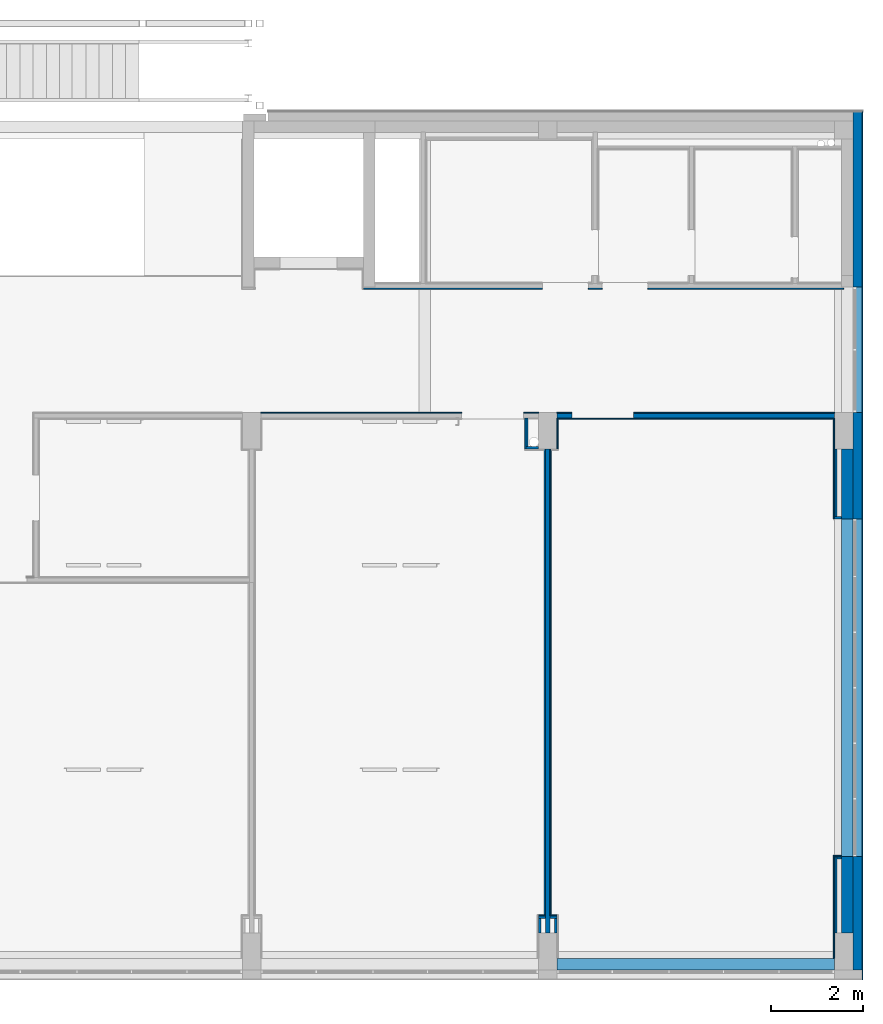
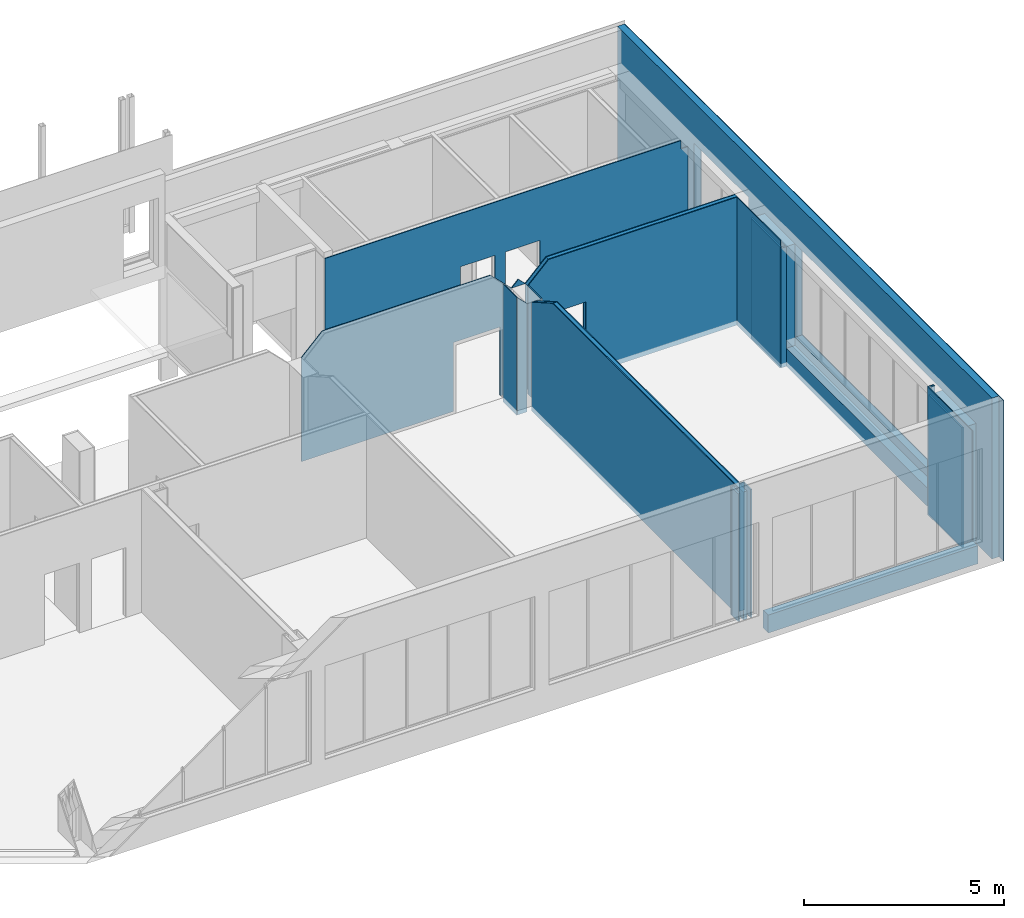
# One storey, part 25 of 29: 30 walls, 11 openings.
"""IFC2X3 building model written with IfcOpenShell, lengths in centimetres."""

from ifc_helpers import new_model, entity, si_unit, converted_unit, derived_unit, direction, frame, frame_2d, origin, origin_2d_with_axis, place, context, subcontext, project, spatial, polyline, rectangle, extrude, clip, bounded_halfspace, material, layer, layer_set, layer_usage, type_object, element, save


model = new_model("IFC2X3")

# Units and contexts
model_context = context("Model", 3, precision=0.001, world=origin(), true_north=direction((6.12303176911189e-17, 1.0)))
body_context = subcontext(model_context, "Body", "Model", "MODEL_VIEW")
ifc_project = project(units=[si_unit("LENGTHUNIT", "METRE", prefix="CENTI"), si_unit("AREAUNIT", "SQUARE_METRE"), si_unit("VOLUMEUNIT", "CUBIC_METRE"), converted_unit("PLANEANGLEUNIT", "DEGREE", entity("IfcRatioMeasure", 0.0174532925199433), si_unit("PLANEANGLEUNIT", "RADIAN"), dimensions=[0, 0, 0, 0, 0, 0, 0]), si_unit("MASSUNIT", "GRAM", prefix="KILO"), derived_unit("MASSDENSITYUNIT", [(si_unit("MASSUNIT", "GRAM", prefix="KILO"), 1), (si_unit("LENGTHUNIT", "METRE"), -3)]), derived_unit("MOMENTOFINERTIAUNIT", [(si_unit("LENGTHUNIT", "METRE"), 4)]), si_unit("TIMEUNIT", "SECOND"), si_unit("FREQUENCYUNIT", "HERTZ"), si_unit("THERMODYNAMICTEMPERATUREUNIT", "DEGREE_CELSIUS"), derived_unit("THERMALTRANSMITTANCEUNIT", [(si_unit("MASSUNIT", "GRAM", prefix="KILO"), 1), (si_unit("THERMODYNAMICTEMPERATUREUNIT", "KELVIN"), -1), (si_unit("TIMEUNIT", "SECOND"), -3)]), derived_unit("VOLUMETRICFLOWRATEUNIT", [(si_unit("LENGTHUNIT", "METRE"), 3), (si_unit("TIMEUNIT", "SECOND"), -1)]), si_unit("ELECTRICCURRENTUNIT", "AMPERE"), si_unit("ELECTRICVOLTAGEUNIT", "VOLT"), si_unit("POWERUNIT", "WATT"), si_unit("FORCEUNIT", "NEWTON", prefix="KILO"), si_unit("ILLUMINANCEUNIT", "LUX"), si_unit("LUMINOUSFLUXUNIT", "LUMEN"), si_unit("LUMINOUSINTENSITYUNIT", "CANDELA"), derived_unit("USERDEFINED", [(si_unit("MASSUNIT", "GRAM", prefix="KILO"), -1), (si_unit("LENGTHUNIT", "METRE"), -2), (si_unit("TIMEUNIT", "SECOND"), 3), (si_unit("LUMINOUSFLUXUNIT", "LUMEN"), 1)]), derived_unit("LINEARVELOCITYUNIT", [(si_unit("LENGTHUNIT", "METRE"), 1), (si_unit("TIMEUNIT", "SECOND"), -1)]), si_unit("PRESSUREUNIT", "PASCAL"), derived_unit("USERDEFINED", [(si_unit("LENGTHUNIT", "METRE"), -2), (si_unit("MASSUNIT", "GRAM", prefix="KILO"), 1), (si_unit("TIMEUNIT", "SECOND"), -2)]), derived_unit("LINEARFORCEUNIT", [(si_unit("MASSUNIT", "GRAM", prefix="KILO"), 1), (si_unit("LENGTHUNIT", "METRE"), 1), (si_unit("TIMEUNIT", "SECOND"), -2), (si_unit("LENGTHUNIT", "METRE"), -1)]), derived_unit("PLANARFORCEUNIT", [(si_unit("MASSUNIT", "GRAM", prefix="KILO"), 1), (si_unit("LENGTHUNIT", "METRE"), 1), (si_unit("TIMEUNIT", "SECOND"), -2), (si_unit("LENGTHUNIT", "METRE"), -2)])], contexts=[model_context])

# Site, building, storey
site_placement = place(None, origin())
site = spatial("IfcSite", under=ifc_project, at=site_placement, Name="Default", CompositionType="ELEMENT")
building_placement = place(site_placement, origin())
building = spatial("IfcBuilding", under=site, at=building_placement, CompositionType="ELEMENT")
storey_placement = place(building_placement, frame((0.0, 0.0, 545.0)))
storey = spatial("IfcBuildingStorey", under=building, at=storey_placement, Name="Poziom 1K +5,45", CompositionType="ELEMENT", Elevation=544.999999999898)

# Walls
ifc_material_1 = material(Name="_Beton C30/37")
ifc_layer_1 = layer(ifc_material_1, 25.0)
ifc_layer_set_1 = layer_set([ifc_layer_1], Name="Ściana podstawowa:Ściana żelbetowa gr. 25cm")
ifc_layer_usage_1 = layer_usage(ifc_layer_set_1, "AXIS2", "NEGATIVE", 12.5)
wall_type_1 = type_object("IfcWallType", Name="Ściana podstawowa:Ściana żelbetowa gr. 25cm", PredefinedType="STANDARD", material=ifc_layer_set_1)
wall_1_placement = place(storey_placement, frame((963.234891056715, 1390.12745208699, 0.0), z_axis=(0.0, 0.0, 1.0), x_axis=(0.0, -1.0, 0.0)))
element("IfcWallStandardCase", 1, at=wall_1_placement, inside=storey, type_object=wall_type_1, material=ifc_layer_usage_1, Name="Ściana podstawowa:Ściana żelbetowa gr. 25cm", ObjectType="Ściana podstawowa:Ściana żelbetowa gr. 25cm", context=body_context, shape_type="SweptSolid", body=[
    extrude(rectangle(XDim=152.000989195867, YDim=24.9999999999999, at=frame_2d((76.0004945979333, 0.0), x_axis=(-1.0, 0.0))), origin(), (0.0, 0.0, 1.0), 365.000000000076),
])
ifc_layer_usage_2 = layer_usage(ifc_layer_set_1, "AXIS2", "NEGATIVE", 12.5)
wall_2_placement = place(storey_placement, frame((963.234891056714, 502.126457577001, 0.0), z_axis=(0.0, 0.0, 1.0), x_axis=(0.0, -1.0, 0.0)))
element("IfcWallStandardCase", 2, at=wall_2_placement, inside=storey, type_object=wall_type_1, material=ifc_layer_usage_2, Name="Ściana podstawowa:Ściana żelbetowa gr. 25cm", ObjectType="Ściana podstawowa:Ściana żelbetowa gr. 25cm", context=body_context, shape_type="SweptSolid", body=[
    extrude(rectangle(XDim=166.99879997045, YDim=24.9999999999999, at=frame_2d((83.4993999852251, 0.0), x_axis=(-1.0, 0.0))), origin(), (0.0, 0.0, 1.0), 365.000000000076),
])
ifc_material_2 = material(Name="Pustak ceramiczny, klasa 15")
ifc_layer_2 = layer(ifc_material_2, 25.0)
ifc_layer_set_2 = layer_set([ifc_layer_2], Name="Ściana podstawowa:Ściana murowana gr. 25cm")
ifc_layer_usage_3 = layer_usage(ifc_layer_set_2, "AXIS2", "POSITIVE", -12.5)
wall_type_2 = type_object("IfcWallType", Name="Ściana podstawowa:Ściana murowana gr. 25cm", PredefinedType="STANDARD", material=ifc_layer_set_2)
wall_3_placement = place(storey_placement, frame((330.734893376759, 267.62765760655, 0.0)))
element("IfcWallStandardCase", 3, at=wall_3_placement, inside=storey, type_object=wall_type_2, material=ifc_layer_usage_3, Name="Ściana podstawowa:Ściana murowana gr. 25cm", ObjectType="Ściana podstawowa:Ściana murowana gr. 25cm", context=body_context, shape_type="SweptSolid", body=[
    extrude(rectangle(XDim=604.999997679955, YDim=24.9999999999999, at=frame_2d((302.499998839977, 0.0), x_axis=(-1.0, 0.0))), origin(), (0.0, 0.0, 1.0), 55.0000000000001),
])
ifc_layer_usage_4 = layer_usage(ifc_layer_set_2, "AXIS2", "POSITIVE", -12.5)
wall_4_placement = place(storey_placement, frame((963.234891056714, 502.126457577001, 0.0), z_axis=(0.0, 0.0, 1.0), x_axis=(0.0, 1.0, 0.0)))
element("IfcWallStandardCase", 4, at=wall_4_placement, inside=storey, type_object=wall_type_2, material=ifc_layer_usage_4, Name="Ściana podstawowa:Ściana murowana gr. 25cm", ObjectType="Ściana podstawowa:Ściana murowana gr. 25cm", context=body_context, shape_type="SweptSolid", body=[
    extrude(rectangle(XDim=736.000005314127, YDim=24.9999999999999, at=frame_2d((368.000002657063, 0.0), x_axis=(-1.0, 0.0))), origin(), (0.0, 0.0, 1.0), 55.0000000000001),
])

# Wall, opening
ifc_material_3 = material(Name="Wełna skalna")
ifc_layer_3 = layer(ifc_material_3, 10.0)
ifc_layer_set_3 = layer_set([ifc_layer_3], Name="Ściana podstawowa:Ściana GK rdzeń gr. 10cm")
ifc_layer_usage_5 = layer_usage(ifc_layer_set_3, "AXIS2", "NEGATIVE", 5.0)
wall_type_3 = type_object("IfcWallType", Name="Ściana podstawowa:Ściana GK rdzeń gr. 10cm", PredefinedType="STANDARD", material=ifc_layer_set_3)
wall_5_placement = place(storey_placement, frame((330.73489099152, 1462.62745216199, 13.0)))
wall_5 = element("IfcWallStandardCase", 5, at=wall_5_placement, inside=storey, type_object=wall_type_3, material=ifc_layer_usage_5, Name="Ściana podstawowa:Ściana GK rdzeń gr. 10cm", ObjectType="Ściana podstawowa:Ściana GK rdzeń gr. 10cm", context=body_context, shape_type="Clipping", body=[
    clip(extrude(rectangle(XDim=605.000000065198, YDim=9.99999999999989, at=frame_2d((302.500000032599, 0.0), x_axis=(-1.0, 0.0))), origin(), (0.0, 0.0, 1.0), 377.000000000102), bounded_halfspace(frame((0.0, -5.0, 317.0), z_axis=(0.707106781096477, 0.0, -0.707106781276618), x_axis=(0.0, 1.0, 0.0)), True, frame((0.0, -5.0, 317.0), z_axis=(0.707106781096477, 0.0, -0.707106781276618), x_axis=(0.0, 1.0, 0.0)), polyline([(0.0, 0.0), (10.0, 0.0), (10.0, 84.8528137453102), (0.0, 84.8528137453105), (0.0, 0.0)]))),
])
opening_1_placement = place(wall_5_placement, origin())
element("IfcOpeningElement", 6, at=opening_1_placement, cuts=wall_5, Name="Ściana podstawowa:Ściana GK rdzeń gr. 10cm", ObjectType="Opening", context=body_context, shape_type="SweptSolid", body=[
    extrude(rectangle(XDim=210.0, YDim=135.0, at=frame_2d((-5.6843418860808e-14, -4.9737991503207e-14), x_axis=(0.0, 1.0))), frame((99.9999941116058, -157.4, 105.0), z_axis=(0.0, 1.0, 0.0), x_axis=(1.0, 0.0, 0.0)), (0.0, 0.0, 1.0), 304.8),
])

# Walls
ifc_layer_usage_6 = layer_usage(ifc_layer_set_3, "AXIS2", "POSITIVE", -5.0)
wall_6_placement = place(storey_placement, frame((310.734879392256, 1390.12745208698, 0.0), z_axis=(0.0, 0.0, 1.0), x_axis=(0.0, -1.0, 0.0)))
element("IfcWallStandardCase", 7, at=wall_6_placement, inside=storey, type_object=wall_type_3, material=ifc_layer_usage_6, Name="Ściana podstawowa:Ściana GK rdzeń gr. 10cm", ObjectType="Ściana podstawowa:Ściana GK rdzeń gr. 10cm", context=body_context, shape_type="Clipping", body=[
    clip(extrude(rectangle(XDim=1054.99979448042, YDim=10.0, at=frame_2d((527.499897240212, 0.0), x_axis=(-1.0, 0.0))), origin(), (0.0, 0.0, 1.0), 390.000000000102), bounded_halfspace(frame((0.0, -5.0, 330.0), z_axis=(0.496138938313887, 0.0, -0.868243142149), x_axis=(0.0, 1.0, 0.0)), True, frame((0.0, -5.0, 330.0), z_axis=(0.496138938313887, 0.0, -0.868243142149), x_axis=(0.0, 1.0, 0.0)), polyline([(0.0, 0.0), (10.0, 0.0), (10.0, 120.933866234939), (0.0, 120.933866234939), (0.0, 0.0)]))),
])
ifc_layer_4 = layer(ifc_material_3, 5.0)
ifc_layer_set_4 = layer_set([ifc_layer_4], Name="Ściana podstawowa:Ściana GK rdzeń gr. 5cm")
ifc_layer_usage_7 = layer_usage(ifc_layer_set_4, "AXIS2", "NEGATIVE", 2.5)
wall_type_4 = type_object("IfcWallType", Name="Ściana podstawowa:Ściana GK rdzeń gr. 5cm", PredefinedType="STANDARD", material=ifc_layer_set_4)
wall_7_placement = place(storey_placement, frame((938.234879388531, 335.12765760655, 0.0), z_axis=(0.0, 0.0, 1.0), x_axis=(0.0, 1.0, 0.0)))
element("IfcWallStandardCase", 8, at=wall_7_placement, inside=storey, type_object=wall_type_4, material=ifc_layer_usage_7, Name="Ściana podstawowa:Ściana GK rdzeń gr. 5cm", ObjectType="Ściana podstawowa:Ściana GK rdzeń gr. 5cm", context=body_context, shape_type="Clipping", body=[
    clip(extrude(rectangle(XDim=166.99879997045, YDim=4.99999999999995, at=frame_2d((83.4993999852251, -2.22044604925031e-15), x_axis=(-1.0, 0.0))), origin(), (0.0, 0.0, 1.0), 364.99999999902), bounded_halfspace(frame((0.0, -2.49999999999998, 365.0), z_axis=(0.0, 0.0, -1.0), x_axis=(-1.0, 0.0, 0.0)), True, frame((0.0, -2.49999999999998, 365.0), z_axis=(0.0, 0.0, -1.0), x_axis=(-1.0, 0.0, 0.0)), polyline([(0.0, 0.0), (0.0, 5.0), (-166.99879997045, 5.0), (-166.99879997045, 0.0), (0.0, 0.0)]))),
])
ifc_layer_usage_8 = layer_usage(ifc_layer_set_4, "AXIS2", "NEGATIVE", 2.5)
wall_8_placement = place(storey_placement, frame((940.734879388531, 499.626457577, 0.0)))
element("IfcWallStandardCase", 9, at=wall_8_placement, inside=storey, type_object=wall_type_4, material=ifc_layer_usage_8, Name="Ściana podstawowa:Ściana GK rdzeń gr. 5cm", ObjectType="Ściana podstawowa:Ściana GK rdzeń gr. 5cm", context=body_context, shape_type="SweptSolid", body=[
    extrude(rectangle(XDim=10.0000116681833, YDim=4.99999999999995, at=frame_2d((5.00000583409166, 0.0), x_axis=(-1.0, 0.0))), origin(), (0.0, 0.0, 1.0), 390.000000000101),
])
ifc_layer_usage_9 = layer_usage(ifc_layer_set_4, "AXIS2", "NEGATIVE", 2.5)
wall_9_placement = place(storey_placement, frame((315.734879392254, 370.127452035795, 0.0)))
element("IfcWallStandardCase", 10, at=wall_9_placement, inside=storey, type_object=wall_type_4, material=ifc_layer_usage_9, Name="Ściana podstawowa:Ściana GK rdzeń gr. 5cm", ObjectType="Ściana podstawowa:Ściana GK rdzeń gr. 5cm", context=body_context, shape_type="SweptSolid", body=[
    extrude(rectangle(XDim=15.0000139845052, YDim=5.00000000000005, at=frame_2d((7.50000699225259, 5.55111512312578e-15), x_axis=(-1.0, 0.0))), origin(), (0.0, 0.0, 1.0), 390.000000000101),
])
ifc_layer_usage_10 = layer_usage(ifc_layer_set_4, "AXIS2", "NEGATIVE", 2.5)
wall_10_placement = place(storey_placement, frame((328.234893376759, 367.627452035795, 0.0), z_axis=(0.0, 0.0, 1.0), x_axis=(0.0, -1.0, 0.0)))
element("IfcWallStandardCase", 11, at=wall_10_placement, inside=storey, type_object=wall_type_4, material=ifc_layer_usage_10, Name="Ściana podstawowa:Ściana GK rdzeń gr. 5cm", ObjectType="Ściana podstawowa:Ściana GK rdzeń gr. 5cm", context=body_context, shape_type="SweptSolid", body=[
    extrude(rectangle(XDim=32.4997944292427, YDim=4.99999999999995, at=frame_2d((16.2498972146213, 0.0), x_axis=(-1.0, 0.0))), origin(), (0.0, 0.0, 1.0), 390.000000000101),
])
ifc_layer_usage_11 = layer_usage(ifc_layer_set_4, "AXIS2", "NEGATIVE", 2.5)
wall_11_placement = place(storey_placement, frame((293.234879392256, 367.627452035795, 0.0), z_axis=(0.0, 0.0, 1.0), x_axis=(0.0, -1.0, 0.0)))
element("IfcWallStandardCase", 12, at=wall_11_placement, inside=storey, type_object=wall_type_4, material=ifc_layer_usage_11, Name="Ściana podstawowa:Ściana GK rdzeń gr. 5cm", ObjectType="Ściana podstawowa:Ściana GK rdzeń gr. 5cm", context=body_context, shape_type="SweptSolid", body=[
    extrude(rectangle(XDim=32.4997944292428, YDim=4.99999999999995, at=frame_2d((16.2498972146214, 0.0), x_axis=(-1.0, 0.0))), origin(), (0.0, 0.0, 1.0), 390.000000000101),
])
ifc_layer_usage_12 = layer_usage(ifc_layer_set_4, "AXIS2", "NEGATIVE", 2.5)
wall_12_placement = place(storey_placement, frame((305.734879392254, 370.127452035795, 0.0), z_axis=(0.0, 0.0, 1.0), x_axis=(-1.0, 0.0, 0.0)))
element("IfcWallStandardCase", 13, at=wall_12_placement, inside=storey, type_object=wall_type_4, material=ifc_layer_usage_12, Name="Ściana podstawowa:Ściana GK rdzeń gr. 5cm", ObjectType="Ściana podstawowa:Ściana GK rdzeń gr. 5cm", context=body_context, shape_type="SweptSolid", body=[
    extrude(rectangle(XDim=14.9999860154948, YDim=5.00000000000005, at=frame_2d((7.49999300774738, 5.55111512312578e-15), x_axis=(-1.0, 0.0))), origin(), (0.0, 0.0, 1.0), 390.000000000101),
])
ifc_layer_usage_13 = layer_usage(ifc_layer_set_4, "AXIS2", "NEGATIVE", 2.5)
wall_13_placement = place(storey_placement, frame((265.73487367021, 1457.62745216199, 0.0), z_axis=(0.0, 0.0, 1.0), x_axis=(0.0, -1.0, 0.0)))
element("IfcWallStandardCase", 14, at=wall_13_placement, inside=storey, type_object=wall_type_4, material=ifc_layer_usage_13, Name="Ściana podstawowa:Ściana GK rdzeń gr. 5cm", ObjectType="Ściana podstawowa:Ściana GK rdzeń gr. 5cm", context=body_context, shape_type="Clipping", body=[
    clip(extrude(rectangle(XDim=62.4999999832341, YDim=5.00000000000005, at=frame_2d((31.249999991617, 0.0), x_axis=(-1.0, 0.0))), origin(), (0.0, 0.0, 1.0), 357.500017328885), bounded_halfspace(frame((0.0, -2.49999999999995, 357.500017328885), z_axis=(0.0, -0.707106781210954, -0.707106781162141), x_axis=(1.0, 0.0, 0.0)), True, frame((0.0, -2.49999999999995, 357.500017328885), z_axis=(0.0, -0.707106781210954, -0.707106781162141), x_axis=(1.0, 0.0, 0.0)), polyline([(0.0, 0.0), (0.0, -7.0710678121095), (62.4999999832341, -7.07106781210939), (62.4999999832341, 0.0), (0.0, 0.0)]))),
])
ifc_layer_usage_14 = layer_usage(ifc_layer_set_4, "AXIS2", "NEGATIVE", 2.5)
wall_14_placement = place(storey_placement, frame((263.23487367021, 1392.62745217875, 0.0)))
element("IfcWallStandardCase", 15, at=wall_14_placement, inside=storey, type_object=wall_type_4, material=ifc_layer_usage_14, Name="Ściana podstawowa:Ściana GK rdzeń gr. 5cm", ObjectType="Ściana podstawowa:Ściana GK rdzeń gr. 5cm", context=body_context, shape_type="Clipping", body=[
    clip(extrude(rectangle(XDim=27.5000173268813, YDim=5.00000000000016, at=frame_2d((13.7500086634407, 0.0), x_axis=(-1.0, 0.0))), origin(), (0.0, 0.0, 1.0), 357.500017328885), bounded_halfspace(frame((0.0, -2.49999999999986, 357.500017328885), z_axis=(-0.707106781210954, 0.0, -0.707106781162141), x_axis=(0.0, -1.0, 0.0)), True, frame((0.0, -2.49999999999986, 357.500017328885), z_axis=(-0.707106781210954, 0.0, -0.707106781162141), x_axis=(0.0, -1.0, 0.0)), polyline([(0.0, 0.0), (-5.0, 0.0), (-5.0, -38.890897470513), (0.0, -38.8908974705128), (0.0, 0.0)]))),
])
ifc_layer_usage_15 = layer_usage(ifc_layer_set_4, "AXIS2", "NEGATIVE", 2.5)
wall_15_placement = place(storey_placement, frame((938.234890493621, 1390.12745208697, 0.0), z_axis=(0.0, 0.0, 1.0), x_axis=(0.0, -1.0, 0.0)))
element("IfcWallStandardCase", 16, at=wall_15_placement, inside=storey, type_object=wall_type_4, material=ifc_layer_usage_15, Name="Ściana podstawowa:Ściana GK rdzeń gr. 5cm", ObjectType="Ściana podstawowa:Ściana GK rdzeń gr. 5cm", context=body_context, shape_type="Clipping", body=[
    clip(extrude(rectangle(XDim=147.000988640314, YDim=4.99999999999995, at=frame_2d((73.5004943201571, 0.0), x_axis=(-1.0, 0.0))), origin(), (0.0, 0.0, 1.0), 364.99999999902), bounded_halfspace(frame((0.0, -2.49999999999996, 365.0), z_axis=(0.0, 0.0, -1.0), x_axis=(1.0, 0.0, 0.0)), True, frame((0.0, -2.49999999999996, 365.0), z_axis=(0.0, 0.0, -1.0), x_axis=(1.0, 0.0, 0.0)), polyline([(0.0, 0.0), (0.0, -5.0), (147.000988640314, -5.0), (147.000988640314, 0.0), (0.0, 0.0)]))),
])
ifc_layer_usage_16 = layer_usage(ifc_layer_set_4, "AXIS2", "NEGATIVE", 2.5)
wall_16_placement = place(storey_placement, frame((935.734890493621, 1240.62646344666, 0.0)))
element("IfcWallStandardCase", 17, at=wall_16_placement, inside=storey, type_object=wall_type_4, material=ifc_layer_usage_16, Name="Ściana podstawowa:Ściana GK rdzeń gr. 5cm", ObjectType="Ściana podstawowa:Ściana GK rdzeń gr. 5cm", context=body_context, shape_type="Clipping", body=[
    clip(extrude(rectangle(XDim=15.0000005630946, YDim=5.00000000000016, at=frame_2d((7.50000028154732, 0.0), x_axis=(-1.0, 0.0))), origin(), (0.0, 0.0, 1.0), 364.99999999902), bounded_halfspace(frame((0.0, -2.49999999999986, 365.0), z_axis=(0.0, 0.0, -1.0), x_axis=(0.0, -1.0, 0.0)), True, frame((0.0, -2.49999999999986, 365.0), z_axis=(0.0, 0.0, -1.0), x_axis=(0.0, -1.0, 0.0)), polyline([(0.0, 0.0), (-5.0, 0.0), (-5.0, -15.0000005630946), (0.0, -15.0000005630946), (0.0, 0.0)]))),
])

# Wall, openings
ifc_material_4 = material(Name="Tynk gipsowy")
ifc_layer_5 = layer(ifc_material_4, 2.5)
ifc_layer_set_5 = layer_set([ifc_layer_5], Name="Ściana podstawowa:Ściana GK wykonczenie gr. 2,5cm")
ifc_layer_usage_17 = layer_usage(ifc_layer_set_5, "AXIS2", "NEGATIVE", 1.25)
wall_type_5 = type_object("IfcWallType", Name="Ściana podstawowa:Ściana GK wykonczenie gr. 2,5cm", PredefinedType="STANDARD", material=ifc_layer_set_5)
wall_17_placement = place(storey_placement, frame((-90.7651144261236, 1739.37745162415, 13.0)))
wall_17 = element("IfcWallStandardCase", 18, at=wall_17_placement, inside=storey, type_object=wall_type_5, material=ifc_layer_usage_17, Name="Ściana podstawowa:Ściana GK wykonczenie gr. 2,5cm", ObjectType="Ściana podstawowa:Ściana GK wykonczenie gr. 2,5cm", context=body_context, shape_type="Clipping", body=[
    clip(clip(extrude(rectangle(XDim=1046.50000548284, YDim=2.49999999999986, at=frame_2d((523.250002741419, 0.0), x_axis=(-1.0, 0.0))), origin(), (0.0, 0.0, 1.0), 377.000000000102), bounded_halfspace(frame((1026.50000548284, 1.24999999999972, 352.0), z_axis=(0.0, 0.0, -1.0), x_axis=(0.0, -1.0, 0.0)), True, frame((1026.50000548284, 1.24999999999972, 352.0), z_axis=(0.0, 0.0, -1.0), x_axis=(0.0, -1.0, 0.0)), polyline([(0.0, 0.0), (0.0, -20.0), (2.49999999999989, -20.0), (2.50000000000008, 0.0), (0.0, 0.0)]))), bounded_halfspace(frame((1026.50000548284, -1.25000000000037, 352.0), z_axis=(-1.0, 0.0, 0.0), x_axis=(0.0, -1.0, 0.0)), True, frame((1026.50000548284, -1.25000000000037, 352.0), z_axis=(-1.0, 0.0, 0.0), x_axis=(0.0, -1.0, 0.0)), polyline([(0.0, 0.0), (0.0, 25.0), (-2.50000000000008, 25.0), (-2.50000000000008, 0.0), (0.0, 0.0)]))),
])
opening_2_placement = place(wall_17_placement, origin())
element("IfcOpeningElement", 19, at=opening_2_placement, cuts=wall_17, Name="Ściana podstawowa:Ściana GK wykonczenie gr. 2,5cm", ObjectType="Opening", context=body_context, shape_type="SweptSolid", body=[
    extrude(rectangle(XDim=215.0, YDim=99.9999999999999, at=frame_2d((0.0, 2.8421709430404e-14), x_axis=(1.0, 0.0))), frame((439.999993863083, -141.149999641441, 107.5), z_axis=(0.0, 1.0, 0.0), x_axis=(0.0, 0.0, -1.0)), (0.0, 0.0, 1.0), 304.8),
])
opening_3_placement = place(wall_17_placement, origin())
element("IfcOpeningElement", 20, at=opening_3_placement, cuts=wall_17, Name="Ściana podstawowa:Ściana GK wykonczenie gr. 2,5cm", ObjectType="Opening", context=body_context, shape_type="SweptSolid", body=[
    extrude(rectangle(XDim=215.0, YDim=99.9999999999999, at=frame_2d((0.0, 8.17124146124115e-14), x_axis=(1.0, 0.0))), frame((569.999993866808, -141.149999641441, 107.5), z_axis=(0.0, 1.0, 0.0), x_axis=(0.0, 0.0, -1.0)), (0.0, 0.0, 1.0), 304.8),
])

ifc_layer_usage_18 = layer_usage(ifc_layer_set_5, "AXIS2", "NEGATIVE", 1.25)
wall_18_placement = place(storey_placement, frame((-314.265109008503, 1468.87745208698, 13.0)))
wall_18 = element("IfcWallStandardCase", 21, at=wall_18_placement, inside=storey, type_object=wall_type_5, material=ifc_layer_usage_18, Name="Ściana podstawowa:Ściana GK wykonczenie gr. 2,5cm", ObjectType="Ściana podstawowa:Ściana GK wykonczenie gr. 2,5cm", context=body_context, shape_type="Clipping", body=[
    clip(clip(clip(extrude(rectangle(XDim=1250.00000361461, YDim=2.49999999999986, at=frame_2d((625.000001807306, 0.0), x_axis=(-1.0, 0.0))), origin(), (0.0, 0.0, 1.0), 377.000000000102), bounded_halfspace(frame((0.0, -1.25000000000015, 317.0), z_axis=(0.707106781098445, 0.0, -0.707106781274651), x_axis=(0.0, 1.0, 0.0)), True, frame((0.0, -1.25000000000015, 317.0), z_axis=(0.707106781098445, 0.0, -0.707106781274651), x_axis=(0.0, 1.0, 0.0)), polyline([(0.0, 0.0), (2.50000000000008, 0.0), (2.49999999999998, 84.8528137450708), (0.0, 84.8528137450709), (0.0, 0.0)]))), bounded_halfspace(frame((545.0, -1.24999999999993, 377.0), z_axis=(-0.707106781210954, 0.0, -0.707106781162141), x_axis=(0.0, -1.0, 0.0)), True, frame((545.0, -1.24999999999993, 377.0), z_axis=(-0.707106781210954, 0.0, -0.707106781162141), x_axis=(0.0, -1.0, 0.0)), polyline([(0.0, 0.0), (-2.50000000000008, 0.0), (-2.49999999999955, -84.8528137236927), (0.0, -84.8528137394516), (0.0, 0.0)]))), bounded_halfspace(frame((645.0, -1.25000000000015, 317.0), z_axis=(0.707106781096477, 0.0, -0.707106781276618), x_axis=(0.0, 1.0, 0.0)), True, frame((645.0, -1.25000000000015, 317.0), z_axis=(0.707106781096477, 0.0, -0.707106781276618), x_axis=(0.0, 1.0, 0.0)), polyline([(0.0, 0.0), (2.50000000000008, 0.0), (2.49999999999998, 84.8528137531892), (0.0, 84.8528137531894), (0.0, 0.0)]))),
])
opening_4_placement = place(storey_placement, frame((-314.265109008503, 1468.87745208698, 13.0)))
element("IfcOpeningElement", 22, at=opening_4_placement, cuts=wall_18, Name="Ściana podstawowa:Ściana GK wykonczenie gr. 2,5cm:1", ObjectType="Opening", context=body_context, shape_type="SweptSolid", body=[
    extrude(rectangle(XDim=317.000000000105, YDim=2.50000000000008, at=frame_2d((4.2632564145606e-14, 1.08357767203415e-13), x_axis=(1.0, 0.0))), frame((605.0, 0.0, 158.500000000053), z_axis=(1.0, 0.0, 0.0), x_axis=(0.0, 0.0, -1.0)), (0.0, 0.0, 1.0), 40.0),
])
opening_5_placement = place(wall_18_placement, origin())
element("IfcOpeningElement", 23, at=opening_5_placement, cuts=wall_18, Name="Ściana podstawowa:Ściana GK wykonczenie gr. 2,5cm", ObjectType="Opening", context=body_context, shape_type="SweptSolid", body=[
    extrude(rectangle(XDim=210.0, YDim=135.0, at=frame_2d((-1.4210854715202e-14, -4.9737991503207e-14), x_axis=(0.0, 1.0))), frame((504.999982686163, -163.64999992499, 105.0), z_axis=(0.0, 1.0, 0.0), x_axis=(1.0, 0.0, 0.0)), (0.0, 0.0, 1.0), 304.8),
])
opening_6_placement = place(wall_18_placement, origin())
element("IfcOpeningElement", 24, at=opening_6_placement, cuts=wall_18, Name="Ściana podstawowa:Ściana GK wykonczenie gr. 2,5cm", ObjectType="Opening", context=body_context, shape_type="SweptSolid", body=[
    extrude(rectangle(XDim=210.0, YDim=135.0, at=frame_2d((-5.6843418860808e-14, -4.9737991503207e-14), x_axis=(0.0, 1.0))), frame((744.999994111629, -163.64999992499, 105.0), z_axis=(0.0, 1.0, 0.0), x_axis=(1.0, 0.0, 0.0)), (0.0, 0.0, 1.0), 304.8),
])

# Wall, opening
ifc_layer_usage_19 = layer_usage(ifc_layer_set_5, "AXIS2", "NEGATIVE", 1.25)
wall_19_placement = place(storey_placement, frame((330.73489099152, 1456.37745216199, 0.0)))
wall_19 = element("IfcWallStandardCase", 25, at=wall_19_placement, inside=storey, type_object=wall_type_5, material=ifc_layer_usage_19, Name="Ściana podstawowa:Ściana GK wykonczenie gr. 2,5cm", ObjectType="Ściana podstawowa:Ściana GK wykonczenie gr. 2,5cm", context=body_context, shape_type="Clipping", body=[
    clip(extrude(rectangle(XDim=605.000000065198, YDim=2.49999999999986, at=frame_2d((302.500000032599, 0.0), x_axis=(-1.0, 0.0))), origin(), (0.0, 0.0, 1.0), 390.000000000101), bounded_halfspace(frame((0.0, -1.25000000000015, 330.0), z_axis=(0.707106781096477, 0.0, -0.707106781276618), x_axis=(0.0, 1.0, 0.0)), True, frame((0.0, -1.25000000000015, 330.0), z_axis=(0.707106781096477, 0.0, -0.707106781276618), x_axis=(0.0, 1.0, 0.0)), polyline([(0.0, 0.0), (2.50000000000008, 0.0), (2.49999999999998, 84.8528137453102), (0.0, 84.8528137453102), (0.0, 0.0)]))),
])
opening_7_placement = place(wall_19_placement, origin())
element("IfcOpeningElement", 26, at=opening_7_placement, cuts=wall_19, Name="Ściana podstawowa:Ściana GK wykonczenie gr. 2,5cm", ObjectType="Opening", context=body_context, shape_type="SweptSolid", body=[
    extrude(rectangle(XDim=210.0, YDim=135.0, at=frame_2d((-5.6843418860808e-14, -4.9737991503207e-14), x_axis=(0.0, 1.0))), frame((99.9999941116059, -151.15, 118.0), z_axis=(0.0, 1.0, 0.0), x_axis=(1.0, 0.0, 0.0)), (0.0, 0.0, 1.0), 304.8),
])

# Walls
ifc_layer_usage_20 = layer_usage(ifc_layer_set_5, "AXIS2", "NEGATIVE", 1.25)
wall_20_placement = place(storey_placement, frame((934.484891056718, 1455.12745216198, 0.0), z_axis=(0.0, 0.0, 1.0), x_axis=(0.0, -1.0, 0.0)))
element("IfcWallStandardCase", 27, at=wall_20_placement, inside=storey, type_object=wall_type_5, material=ifc_layer_usage_20, Name="Ściana podstawowa:Ściana GK wykonczenie gr. 2,5cm", ObjectType="Ściana podstawowa:Ściana GK wykonczenie gr. 2,5cm", context=body_context, shape_type="SweptSolid", body=[
    extrude(rectangle(XDim=217.000988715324, YDim=2.50000000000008, at=frame_2d((108.500494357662, -1.77635683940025e-15), x_axis=(-1.0, 0.0))), origin(), (0.0, 0.0, 1.0), 390.000000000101),
])
ifc_layer_usage_21 = layer_usage(ifc_layer_set_5, "AXIS2", "NEGATIVE", 1.25)
wall_21_placement = place(storey_placement, frame((950.734891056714, 503.376457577, 0.0), z_axis=(0.0, 0.0, 1.0), x_axis=(-1.0, 0.0, 0.0)))
element("IfcWallStandardCase", 28, at=wall_21_placement, inside=storey, type_object=wall_type_5, material=ifc_layer_usage_21, Name="Ściana podstawowa:Ściana GK wykonczenie gr. 2,5cm", ObjectType="Ściana podstawowa:Ściana GK wykonczenie gr. 2,5cm", context=body_context, shape_type="SweptSolid", body=[
    extrude(rectangle(XDim=15.0000116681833, YDim=2.50000000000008, at=frame_2d((7.50000583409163, -7.66053886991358e-15), x_axis=(-1.0, 0.0))), origin(), (0.0, 0.0, 1.0), 390.000000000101),
])
ifc_layer_usage_22 = layer_usage(ifc_layer_set_5, "AXIS2", "NEGATIVE", 1.25)
wall_22_placement = place(storey_placement, frame((934.484891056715, 504.626457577, 0.0), z_axis=(0.0, 0.0, 1.0), x_axis=(0.0, -1.0, 0.0)))
element("IfcWallStandardCase", 29, at=wall_22_placement, inside=storey, type_object=wall_type_5, material=ifc_layer_usage_22, Name="Ściana podstawowa:Ściana GK wykonczenie gr. 2,5cm", ObjectType="Ściana podstawowa:Ściana GK wykonczenie gr. 2,5cm", context=body_context, shape_type="SweptSolid", body=[
    extrude(rectangle(XDim=224.498799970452, YDim=2.50000000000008, at=frame_2d((112.249399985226, 0.0), x_axis=(-1.0, 0.0))), origin(), (0.0, 0.0, 1.0), 390.000000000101),
])
ifc_layer_usage_23 = layer_usage(ifc_layer_set_5, "AXIS2", "NEGATIVE", 1.25)
wall_23_placement = place(storey_placement, frame((330.734893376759, 373.877452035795, 0.0), z_axis=(0.0, 0.0, 1.0), x_axis=(-1.0, 0.0, 0.0)))
element("IfcWallStandardCase", 30, at=wall_23_placement, inside=storey, type_object=wall_type_5, material=ifc_layer_usage_23, Name="Ściana podstawowa:Ściana GK wykonczenie gr. 2,5cm", ObjectType="Ściana podstawowa:Ściana GK wykonczenie gr. 2,5cm", context=body_context, shape_type="SweptSolid", body=[
    extrude(rectangle(XDim=15.0000139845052, YDim=2.49999999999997, at=frame_2d((7.50000699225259, 0.0), x_axis=(-1.0, 0.0))), origin(), (0.0, 0.0, 1.0), 390.000000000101),
])
ifc_layer_usage_24 = layer_usage(ifc_layer_set_5, "AXIS2", "NEGATIVE", 1.25)
wall_24_placement = place(storey_placement, frame((316.984879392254, 375.127452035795, 0.0), z_axis=(0.0, 0.0, 1.0), x_axis=(0.0, 1.0, 0.0)))
element("IfcWallStandardCase", 31, at=wall_24_placement, inside=storey, type_object=wall_type_5, material=ifc_layer_usage_24, Name="Ściana podstawowa:Ściana GK wykonczenie gr. 2,5cm", ObjectType="Ściana podstawowa:Ściana GK wykonczenie gr. 2,5cm", context=body_context, shape_type="Clipping", body=[
    clip(extrude(rectangle(XDim=1015.00000005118, YDim=2.49999999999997, at=frame_2d((507.500000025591, 0.0), x_axis=(-1.0, 0.0))), origin(), (0.0, 0.0, 1.0), 390.000000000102), bounded_halfspace(frame((910.0, -1.24999999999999, 390.0), z_axis=(-0.496138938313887, 0.0, -0.868243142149), x_axis=(0.0, -1.0, 0.0)), True, frame((910.0, -1.24999999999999, 390.0), z_axis=(-0.496138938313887, 0.0, -0.868243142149), x_axis=(0.0, -1.0, 0.0)), polyline([(0.0, 0.0), (-2.49999999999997, 0.0), (-2.49999999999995, -120.93386623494), (0.0, -120.93386623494), (0.0, 0.0)]))),
])
ifc_layer_usage_25 = layer_usage(ifc_layer_set_5, "AXIS2", "NEGATIVE", 1.25)
wall_25_placement = place(storey_placement, frame((331.984890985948, 1390.12745208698, 0.0), z_axis=(0.0, 0.0, 1.0), x_axis=(0.0, 1.0, 0.0)))
element("IfcWallStandardCase", 32, at=wall_25_placement, inside=storey, type_object=wall_type_5, material=ifc_layer_usage_25, Name="Ściana podstawowa:Ściana GK wykonczenie gr. 2,5cm", ObjectType="Ściana podstawowa:Ściana GK wykonczenie gr. 2,5cm", context=body_context, shape_type="Clipping", body=[
    clip(extrude(rectangle(XDim=64.9999999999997, YDim=2.49999999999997, at=frame_2d((32.4999999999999, 0.0), x_axis=(-1.0, 0.0))), origin(), (0.0, 0.0, 1.0), 332.499999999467), bounded_halfspace(frame((0.0, -1.25, 332.499999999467), z_axis=(0.0, -0.707106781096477, -0.707106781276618), x_axis=(1.0, 0.0, 0.0)), True, frame((0.0, -1.25, 332.499999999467), z_axis=(0.0, -0.707106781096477, -0.707106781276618), x_axis=(1.0, 0.0, 0.0)), polyline([(0.0, 0.0), (0.0, -3.5355339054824), (65.0, -3.53553390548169), (65.0, 0.0), (0.0, 0.0)]))),
])
ifc_layer_usage_26 = layer_usage(ifc_layer_set_5, "AXIS2", "NEGATIVE", 1.25)
wall_26_placement = place(storey_placement, frame((290.734879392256, 373.877452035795, 0.0)))
element("IfcWallStandardCase", 33, at=wall_26_placement, inside=storey, type_object=wall_type_5, material=ifc_layer_usage_26, Name="Ściana podstawowa:Ściana GK wykonczenie gr. 2,5cm", ObjectType="Ściana podstawowa:Ściana GK wykonczenie gr. 2,5cm", context=body_context, shape_type="SweptSolid", body=[
    extrude(rectangle(XDim=14.9999949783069, YDim=2.49999999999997, at=frame_2d((7.49999748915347, 0.0), x_axis=(-1.0, 0.0))), origin(), (0.0, 0.0, 1.0), 390.000000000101),
])
ifc_layer_usage_27 = layer_usage(ifc_layer_set_5, "AXIS2", "NEGATIVE", 1.25)
wall_27_placement = place(storey_placement, frame((304.484874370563, 375.127452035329, 0.0), z_axis=(0.0, 0.0, 1.0), x_axis=(0.0, 1.0, 0.0)))
element("IfcWallStandardCase", 34, at=wall_27_placement, inside=storey, type_object=wall_type_5, material=ifc_layer_usage_27, Name="Ściana podstawowa:Ściana GK wykonczenie gr. 2,5cm", ObjectType="Ściana podstawowa:Ściana GK wykonczenie gr. 2,5cm", context=body_context, shape_type="Clipping", body=[
    clip(extrude(rectangle(XDim=1015.00000005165, YDim=2.49999999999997, at=frame_2d((507.500000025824, 0.0), x_axis=(-1.0, 0.0))), origin(), (0.0, 0.0, 1.0), 390.000000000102), bounded_halfspace(frame((910.0, -1.24999999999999, 390.0), z_axis=(-0.496138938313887, 0.0, -0.868243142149), x_axis=(0.0, -1.0, 0.0)), True, frame((910.0, -1.24999999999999, 390.0), z_axis=(-0.496138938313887, 0.0, -0.868243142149), x_axis=(0.0, -1.0, 0.0)), polyline([(0.0, 0.0), (-2.49999999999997, 0.0), (-2.49999999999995, -120.93386623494), (0.0, -120.93386623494), (0.0, 0.0)]))),
])
ifc_layer_usage_28 = layer_usage(ifc_layer_set_5, "AXIS2", "NEGATIVE", 1.25)
wall_28_placement = place(storey_placement, frame((261.98487367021, 1390.12745208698, 0.0), z_axis=(0.0, 0.0, 1.0), x_axis=(0.0, 1.0, 0.0)))
element("IfcWallStandardCase", 35, at=wall_28_placement, inside=storey, type_object=wall_type_5, material=ifc_layer_usage_28, Name="Ściana podstawowa:Ściana GK wykonczenie gr. 2,5cm", ObjectType="Ściana podstawowa:Ściana GK wykonczenie gr. 2,5cm", context=body_context, shape_type="Clipping", body=[
    clip(extrude(rectangle(XDim=67.5000000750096, YDim=2.49999999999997, at=frame_2d((33.7500000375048, 2.1094237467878e-15), x_axis=(-1.0, 0.0))), origin(), (0.0, 0.0, 1.0), 360.000017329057), bounded_halfspace(frame((0.0, -1.25000000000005, 357.500017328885), z_axis=(0.0, 0.707106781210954, -0.707106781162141), x_axis=(-1.0, 0.0, 0.0)), True, frame((0.0, -1.25000000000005, 357.500017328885), z_axis=(0.0, 0.707106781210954, -0.707106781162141), x_axis=(-1.0, 0.0, 0.0)), polyline([(0.0, 0.0), (0.0, 3.53553390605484), (-67.5000000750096, 3.53553390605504), (-67.5000000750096, 0.0), (0.0, 0.0)]))),
])

# Wall, openings
ifc_layer_6 = layer(ifc_material_3, 20.0)
ifc_layer_set_6 = layer_set([ifc_layer_6], Name="Ściana podstawowa:Wełna mineralna gr. 20cm")
ifc_layer_usage_29 = layer_usage(ifc_layer_set_6, "AXIS2", "NEGATIVE", 10.0)
wall_type_6 = type_object("IfcWallType", Name="Ściana podstawowa:Wełna mineralna gr. 20cm", PredefinedType="STANDARD", material=ifc_layer_set_6)
wall_29_placement = place(storey_placement, frame((985.734884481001, 255.127452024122, 0.0), z_axis=(0.0, 0.0, 1.0), x_axis=(0.0, 1.0, 0.0)))
wall_29 = element("IfcWallStandardCase", 36, at=wall_29_placement, inside=storey, type_object=wall_type_6, material=ifc_layer_usage_29, Name="Ściana podstawowa:Wełna mineralna gr. 20cm", ObjectType="Ściana podstawowa:Wełna mineralna gr. 20cm", context=body_context, shape_type="SweptSolid", body=[
    extrude(rectangle(XDim=1870.0, YDim=19.9999999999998, at=frame_2d((935.0, 0.0), x_axis=(-1.0, 0.0))), origin(), (0.0, 0.0, 1.0), 490.000000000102),
])
opening_8_placement = place(wall_29_placement, origin())
element("IfcOpeningElement", 37, at=opening_8_placement, cuts=wall_29, Name="Ściana podstawowa:Wełna mineralna gr. 20cm", ObjectType="Opening", context=body_context, shape_type="SweptSolid", body=[
    extrude(rectangle(XDim=285.000000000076, YDim=736.000005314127, at=frame_2d((5.6843418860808e-14, 0.0), x_axis=(1.0, 0.0))), frame((614.999008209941, 10.0, 222.500000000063), z_axis=(0.0, 1.0, 0.0), x_axis=(0.0, 0.0, 1.0)), (0.0, 0.0, -1.0), 20.0),
])
opening_9_placement = place(wall_29_placement, origin())
element("IfcOpeningElement", 38, at=opening_9_placement, cuts=wall_29, Name="Ściana podstawowa:Wełna mineralna gr. 20cm", ObjectType="Opening", context=body_context, shape_type="SweptSolid", body=[
    extrude(rectangle(XDim=284.99999999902, YDim=272.999999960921, at=origin_2d_with_axis()), frame((1351.50000004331, 10.0, 222.49999999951), z_axis=(0.0, -1.0, 0.0), x_axis=(0.0, 0.0, 1.0)), (0.0, 0.0, 1.0), 20.0),
])

ifc_layer_7 = layer(ifc_material_4, 2.0)
ifc_layer_set_7 = layer_set([ifc_layer_7], Name="Ściana podstawowa:Tynk zewnętrzny gr. 2cm")
ifc_layer_usage_30 = layer_usage(ifc_layer_set_7, "AXIS2", "NEGATIVE", 1.0)
wall_type_7 = type_object("IfcWallType", Name="Ściana podstawowa:Tynk zewnętrzny gr. 2cm", PredefinedType="STANDARD", material=ifc_layer_set_7)
wall_30_placement = place(storey_placement, frame((996.734884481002, 233.127452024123, 0.0), z_axis=(0.0, 0.0, 1.0), x_axis=(0.0, 1.0, 0.0)))
wall_30 = element("IfcWallStandardCase", 39, at=wall_30_placement, inside=storey, type_object=wall_type_7, material=ifc_layer_usage_30, Name="Ściana podstawowa:Tynk zewnętrzny gr. 2cm", ObjectType="Ściana podstawowa:Tynk zewnętrzny gr. 2cm", context=body_context, shape_type="SweptSolid", body=[
    extrude(rectangle(XDim=1892.00000007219, YDim=1.99999999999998, at=frame_2d((946.000000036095, 8.32667268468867e-16), x_axis=(-1.0, 0.0))), origin(), (0.0, 0.0, 1.0), 490.000000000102),
])
opening_10_placement = place(wall_30_placement, origin())
element("IfcOpeningElement", 40, at=opening_10_placement, cuts=wall_30, Name="Ściana podstawowa:Tynk zewnętrzny gr. 2cm", ObjectType="Opening", context=body_context, shape_type="SweptSolid", body=[
    extrude(rectangle(XDim=285.000000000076, YDim=736.000005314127, at=frame_2d((5.6843418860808e-14, 0.0), x_axis=(1.0, 0.0))), frame((636.999008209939, 1.0, 222.500000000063), z_axis=(0.0, -1.0, 0.0), x_axis=(0.0, 0.0, 1.0)), (0.0, 0.0, 1.0), 2.0),
])
opening_11_placement = place(wall_30_placement, origin())
element("IfcOpeningElement", 41, at=opening_11_placement, cuts=wall_30, Name="Ściana podstawowa:Tynk zewnętrzny gr. 2cm", ObjectType="Opening", context=body_context, shape_type="SweptSolid", body=[
    extrude(rectangle(XDim=284.99999999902, YDim=272.999999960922, at=frame_2d((0.0, -2.1316282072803e-13), x_axis=(1.0, 0.0))), frame((1373.50000004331, 1.0, 222.49999999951), z_axis=(0.0, 1.0, 0.0), x_axis=(0.0, 0.0, 1.0)), (0.0, 0.0, -1.0), 2.0),
])

save(model, "model.ifc")
